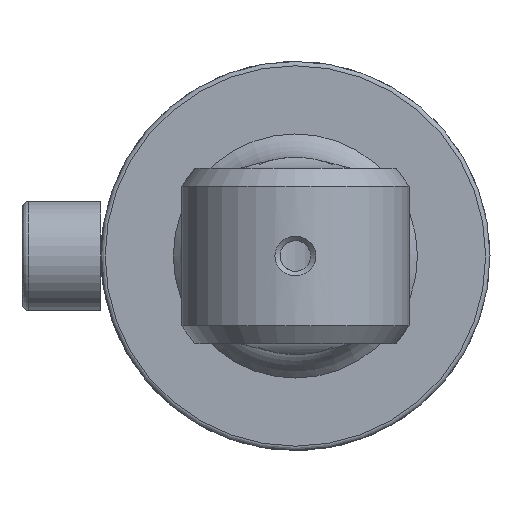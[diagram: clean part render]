
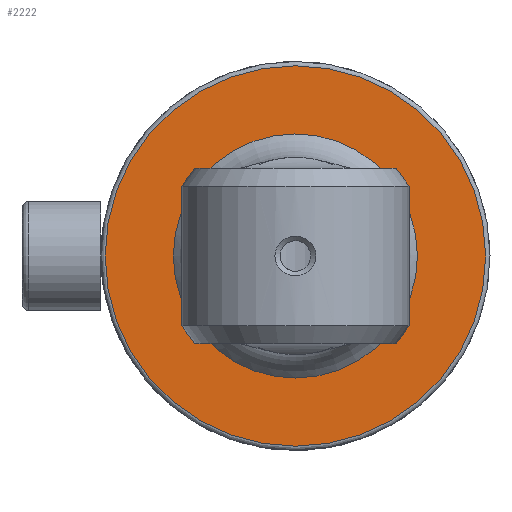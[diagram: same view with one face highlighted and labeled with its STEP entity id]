
A CAD part, left-side view. The second image highlights one B-rep face of the part: STEP entity #2222.
In plain terms, the highlighted planar face has unit normal (-1, 0, 0).
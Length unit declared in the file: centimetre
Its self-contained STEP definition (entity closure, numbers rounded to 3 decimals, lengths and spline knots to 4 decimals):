
#458=PLANE('',#2506);
#632=CIRCLE('',#2504,4.345);
#823=VERTEX_POINT('',#4308);
#1075=EDGE_CURVE('',#823,#823,#632,.T.);
#1527=ORIENTED_EDGE('',*,*,#1075,.F.);
#1796=EDGE_LOOP('',(#1527));
#2067=FACE_BOUND('',#1796,.T.);
#2222=ADVANCED_FACE('',(#2067),#458,.T.);
#2504=AXIS2_PLACEMENT_3D('',#4307,#3073,#3074);
#2506=AXIS2_PLACEMENT_3D('',#4311,#3077,$);
#3073=DIRECTION('',(1.,0.,0.));
#3074=DIRECTION('',(0.,-4.345,0.));
#3077=DIRECTION('',(-1.,0.,0.));
#4307=CARTESIAN_POINT('',(-2.8204,0.,0.));
#4308=CARTESIAN_POINT('',(-2.8204,4.345,0.));
#4311=CARTESIAN_POINT('',(-2.8204,2.2225,0.));
